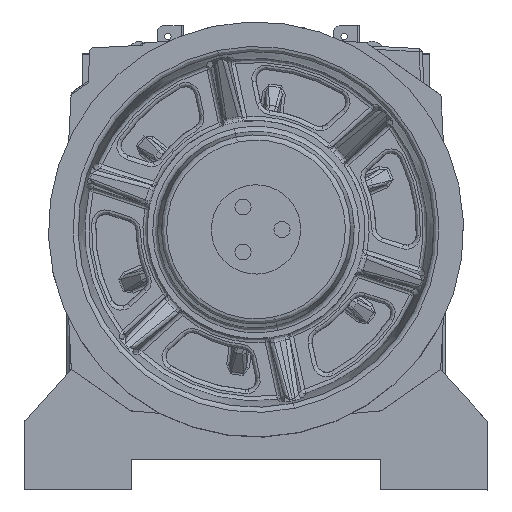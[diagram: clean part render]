
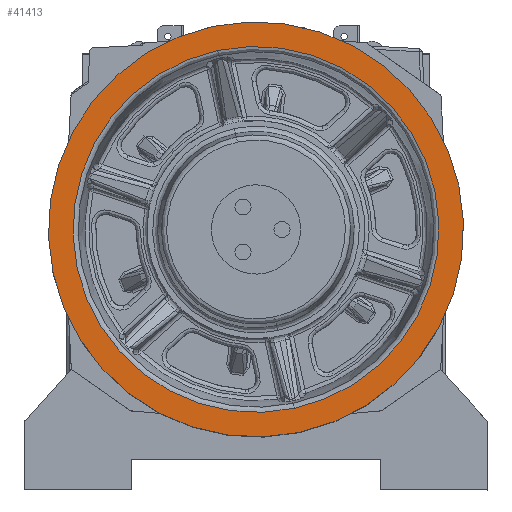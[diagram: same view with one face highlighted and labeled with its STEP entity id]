
A CAD part, top view. The second image highlights one B-rep face of the part: STEP entity #41413.
In plain terms, the highlighted planar face has unit normal (0, 0, 1).
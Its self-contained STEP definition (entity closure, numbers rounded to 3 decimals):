
#1295 = DIRECTION ( 'NONE',  ( 0., 0., 1. ) ) ;
#3407 = CIRCLE ( 'NONE', #45710, 176.331 ) ;
#5725 = CARTESIAN_POINT ( 'NONE',  ( -141.671, 38.963, 491.77 ) ) ;
#15868 = DIRECTION ( 'NONE',  ( 0.209, -0.978, 0. ) ) ;
#17266 = ORIENTED_EDGE ( 'NONE', *, *, #137359, .T. ) ;
#19355 = ORIENTED_EDGE ( 'NONE', *, *, #121581, .F. ) ;
#20981 = VERTEX_POINT ( 'NONE', #75803 ) ;
#23089 = AXIS2_PLACEMENT_3D ( 'NONE', #95437, #142867, #85274 ) ;
#29950 = VERTEX_POINT ( 'NONE', #47828 ) ;
#31957 = DIRECTION ( 'NONE',  ( 0., 0., -1. ) ) ;
#39753 = ORIENTED_EDGE ( 'NONE', *, *, #58517, .T. ) ;
#41413 = ADVANCED_FACE ( 'NONE', ( #97056, #86122 ), #107962, .T. ) ;
#45056 = AXIS2_PLACEMENT_3D ( 'NONE', #132039, #1295, #72907 ) ;
#45710 = AXIS2_PLACEMENT_3D ( 'NONE', #5725, #53189, #15868 ) ;
#47828 = CARTESIAN_POINT ( 'NONE',  ( -104.794, -133.469, 491.77 ) ) ;
#52982 = DIRECTION ( 'NONE',  ( 0.209, -0.978, 0. ) ) ;
#53189 = DIRECTION ( 'NONE',  ( 0., 0., -1. ) ) ;
#57066 = CARTESIAN_POINT ( 'NONE',  ( -141.671, 38.963, 491.77 ) ) ;
#58517 = EDGE_CURVE ( 'NONE', #113938, #29950, #144926, .T. ) ;
#58685 = AXIS2_PLACEMENT_3D ( 'NONE', #136246, #31957, #52982 ) ;
#63746 = EDGE_CURVE ( 'NONE', #102102, #20981, #68596, .T. ) ;
#68596 = CIRCLE ( 'NONE', #58685, 200. ) ;
#68745 = DIRECTION ( 'NONE',  ( 0.209, -0.978, 0. ) ) ;
#69458 = ORIENTED_EDGE ( 'NONE', *, *, #63746, .F. ) ;
#72907 = DIRECTION ( 'NONE',  ( 0.209, -0.978, 0. ) ) ;
#75803 = CARTESIAN_POINT ( 'NONE',  ( -183.498, 234.541, 491.77 ) ) ;
#75911 = EDGE_LOOP ( 'NONE', ( #17266, #39753 ) ) ;
#82605 = EDGE_LOOP ( 'NONE', ( #19355, #69458 ) ) ;
#83503 = DIRECTION ( 'NONE',  ( 0., 0., -1. ) ) ;
#85274 = DIRECTION ( 'NONE',  ( 0.209, -0.978, 0. ) ) ;
#86122 = FACE_OUTER_BOUND ( 'NONE', #82605, .T. ) ;
#95437 = CARTESIAN_POINT ( 'NONE',  ( -141.671, 38.963, 491.77 ) ) ;
#97056 = FACE_BOUND ( 'NONE', #75911, .T. ) ;
#102102 = VERTEX_POINT ( 'NONE', #123464 ) ;
#107962 = PLANE ( 'NONE',  #45056 ) ;
#113938 = VERTEX_POINT ( 'NONE', #122819 ) ;
#116236 = CIRCLE ( 'NONE', #116341, 200. ) ;
#116341 = AXIS2_PLACEMENT_3D ( 'NONE', #57066, #83503, #68745 ) ;
#121581 = EDGE_CURVE ( 'NONE', #20981, #102102, #116236, .T. ) ;
#122819 = CARTESIAN_POINT ( 'NONE',  ( -178.548, 211.395, 491.77 ) ) ;
#123464 = CARTESIAN_POINT ( 'NONE',  ( -99.844, -156.614, 491.77 ) ) ;
#132039 = CARTESIAN_POINT ( 'NONE',  ( 24.57, 74.516, 491.77 ) ) ;
#136246 = CARTESIAN_POINT ( 'NONE',  ( -141.671, 38.963, 491.77 ) ) ;
#137359 = EDGE_CURVE ( 'NONE', #29950, #113938, #3407, .T. ) ;
#142867 = DIRECTION ( 'NONE',  ( 0., 0., -1. ) ) ;
#144926 = CIRCLE ( 'NONE', #23089, 176.331 ) ;
